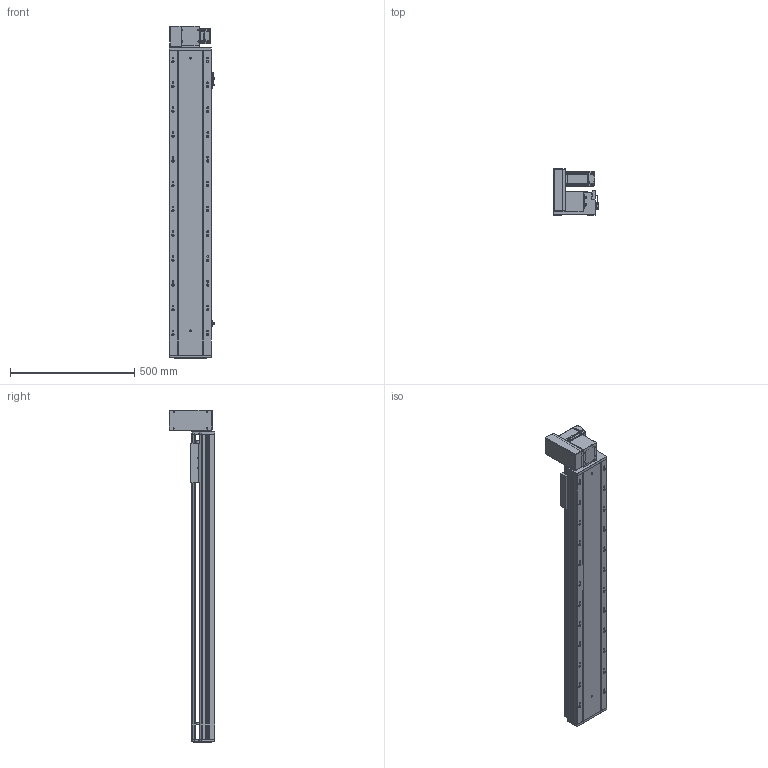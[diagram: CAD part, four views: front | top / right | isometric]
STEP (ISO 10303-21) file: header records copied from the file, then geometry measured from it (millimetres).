
FILE_DESCRIPTION (( 'STEP AP203' ), '1' );
FILE_NAME ('RY170-T-300-UL-P400W.SLDASM_950.step', '2021-03-02T02:12:47', ( '盈信电脑' ), ( '东莞市道滘镇水果街19号' ), 'SwSTEP 2.0', 'SolidWorks 2012', '' );
FILE_SCHEMA (( 'CONFIG_CONTROL_DESIGN' ));
Products named in the file (18): RY170-T-300-UL-P400W.SLDASM_950; 15; RY170-T蹟翐M4; RY120-T主同步轮轴承压盖; RY170肮祭謫萇儂欶; RY170同步轮电机安装板(400W); RY170-T肮祭謫裔啣; RY170-T肮祭湍揤踡輸2; 滅袉蝶18-10; RY170肮祭謫ヶ裔啣; RY170翋肮祭謫釱; RY170-T肮祭湍揤踡輸1; RY170外置感应片(200共用）; RY170-T-300肮祭謫倰第裔啣-DL_950; RY170綴裔啣; 覜茼ん672; RY170肮祭湍臏賑輸; RY170-T-300肮祭謫倰第菁釱-DL_950
Assembly tree (20 placements, depth 2):
  RY170-T-300-UL-P400W.SLDASM_950
    RY170-T-300肮祭謫倰第菁釱-DL_950
    RY170肮祭湍臏賑輸
    RY170-T-300肮祭謫倰第裔啣-DL_950
    RY170綴裔啣
    覜茼ん672  x3
    RY170外置感应片(200共用）
    RY170肮祭謫ヶ裔啣
    RY170翋肮祭謫釱
    RY170-T肮祭湍揤踡輸1
    RY170-T肮祭湍揤踡輸2
    RY170-T肮祭謫裔啣
    滅袉蝶18-10  x2
    RY120-T主同步轮轴承压盖
    RY170肮祭謫萇儂欶
    RY170同步轮电机安装板(400W)
    RY170-T蹟翐M4
    15
Bounding box: 183.7 x 184 x 1338 mm (x, y, z)
Volume: 6645238.7 mm3; surface area: 2253104.6 mm2
Topology: 20 solids, 20 shells, 2697 faces, 7646 edges, 4909 vertices
Faces by surface type: cylinder 1276, plane 1155, cone 236, bspline 30
Entity records: 88200 total; most frequent: CARTESIAN_POINT 20765, ORIENTED_EDGE 13936, DIRECTION 13404, EDGE_CURVE 6968, AXIS2_PLACEMENT_3D 4730, VERTEX_POINT 4577, LINE 3944, VECTOR 3944
